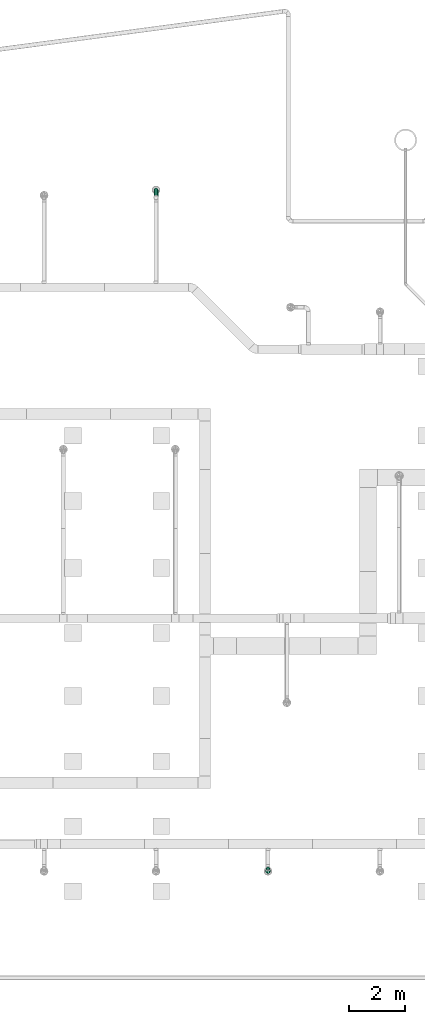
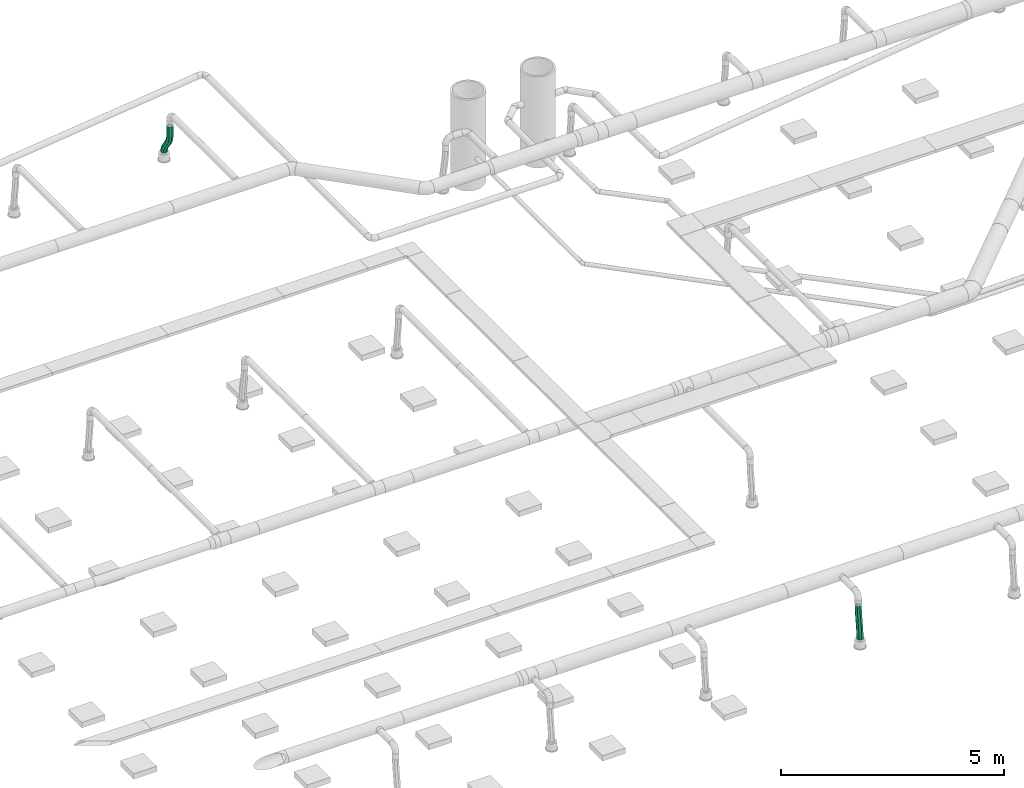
# One storey, part 244 of 374: 2 flow segments.
"""IFC2X3 building model written with IfcOpenShell, lengths in metres."""

import ifcopenshell
import ifcopenshell.guid

model = None  # the IFC model being written
_history = None  # IfcOwnerHistory: only IFC2X3 demands one
_inside = {}  # id of a spatial element -> (the spatial element, [elements in it])
_under = {}  # id of a project, library or spatial element -> (it, [spatial elements below it])
_declared = {}  # id of a project -> (the project, [libraries it declares])
_typed = {}  # id of a type object -> (the type object, [elements of that type])
_made_of = {}  # id of a material, layer set ... -> (it, [elements and type objects made of it])


def new_model(schema):
    """Start an empty IFC model of exactly this schema.

    Asked for "IFC4X3", IfcOpenShell would pick the latest addendum, in which some entities
    have other attributes; the version numbers below select the first issue.
    IFC2X3 requires an IfcOwnerHistory on every rooted entity: one is made here for all.
    """
    global model, _history
    if schema == "IFC4X3":
        model = ifcopenshell.file(schema_version=(4, 3, 0, 0))
    else:
        model = ifcopenshell.file(schema=schema)
    _inside.clear()
    _under.clear()
    _declared.clear()
    _typed.clear()
    _made_of.clear()
    _history = None
    if model.schema == "IFC2X3":
        org = make("IfcOrganization", Name="unknown")
        user = make(
            "IfcPersonAndOrganization",
            ThePerson=make("IfcPerson", FamilyName="unknown"),
            TheOrganization=org,
        )
        app = make(
            "IfcApplication",
            ApplicationDeveloper=org,
            Version="unknown",
            ApplicationFullName="unknown",
            ApplicationIdentifier="unknown",
        )
        _history = make(
            "IfcOwnerHistory",
            OwningUser=user,
            OwningApplication=app,
            ChangeAction="ADDED",
            CreationDate=0,
        )
    return model


def make(cls, **values):
    """One entity of the class cls with the attributes given. An attribute that is None is left unset."""
    return model.create_entity(
        cls, **{name: value for name, value in values.items() if value is not None}
    )


def rooted(cls, **values):
    """An entity with a GlobalId (a new one), such as an element, a storey or a relation."""
    return make(cls, GlobalId=ifcopenshell.guid.new(), OwnerHistory=_history, **values)


def si_unit(unit_type, name, prefix=None):
    """IfcSIUnit, for example si_unit("LENGTHUNIT", "METRE", prefix="MILLI")."""
    return make("IfcSIUnit", UnitType=unit_type, Prefix=prefix, Name=name)


def assignment(units):
    """IfcUnitAssignment: the units of a project."""
    return None if units is None else make("IfcUnitAssignment", Units=units)


def point(xyz):
    """IfcCartesianPoint."""
    return None if xyz is None else make("IfcCartesianPoint", Coordinates=xyz)


def direction(xyz):
    """IfcDirection."""
    return None if xyz is None else make("IfcDirection", DirectionRatios=xyz)


def frame(location, z_axis=None, x_axis=None):
    """IfcAxis2Placement3D, a coordinate frame: its origin and axes. An axis left out is left unset."""
    return make(
        "IfcAxis2Placement3D",
        Location=point(location),
        Axis=direction(z_axis),
        RefDirection=direction(x_axis),
    )


def origin():
    """The frame at (0, 0, 0) with its axes left unset."""
    return frame((0.0, 0.0, 0.0))


def place(relative_to, where):
    """IfcLocalPlacement: puts the frame where relative to a parent placement (None: the world)."""
    return make(
        "IfcLocalPlacement", PlacementRelTo=relative_to, RelativePlacement=where
    )


def context(
    kind, dimensions, precision=None, world=None, true_north=None, identifier=None
):
    """IfcGeometricRepresentationContext, for example the 3D "Model" context."""
    return make(
        "IfcGeometricRepresentationContext",
        ContextIdentifier=identifier,
        ContextType=kind,
        CoordinateSpaceDimension=dimensions,
        Precision=precision,
        WorldCoordinateSystem=world,
        TrueNorth=true_north,
    )


def subcontext(parent, identifier, kind, view, scale=None):
    """IfcGeometricRepresentationSubContext, for example "Body" below "Model"."""
    return make(
        "IfcGeometricRepresentationSubContext",
        ContextIdentifier=identifier,
        ContextType=kind,
        ParentContext=parent,
        TargetScale=scale,
        TargetView=view,
    )


def project(units=None, contexts=None):
    """IfcProject with its units and contexts."""
    return rooted(
        "IfcProject",
        Name="project",
        RepresentationContexts=contexts,
        UnitsInContext=assignment(units),
    )


def spatial(cls, under=None, at=None, **own):
    """A site, building, storey or space (cls), placed at a placement, below another one or the project."""
    s = rooted(cls, ObjectPlacement=at, **own)
    if under is not None:
        _under.setdefault(under.id(), (under, []))[1].append(s)
    return s


def faces_of(points, faces, orient=None, outer=None):
    """IfcFace entities. A face is a list of loops; a loop is a list of indices into points, from 0.

    orient and outer hold one flag for each loop. By default every Orientation is true, the
    first loop of a face is its IfcFaceOuterBound and the others are IfcFaceBound.
    """
    made = []
    for i, loops in enumerate(faces):
        bounds = []
        for j, loop in enumerate(loops):
            is_outer = j == 0 if outer is None else outer[i][j]
            bounds.append(
                make(
                    "IfcFaceOuterBound" if is_outer else "IfcFaceBound",
                    Bound=make("IfcPolyLoop", Polygon=[points[k] for k in loop]),
                    Orientation=True if orient is None else orient[i][j],
                )
            )
        made.append(make("IfcFace", Bounds=bounds))
    return made


def open_shell(faces, orient=None, outer=None):
    """The faces of one IfcOpenShell. surface_model builds it on its shared points."""
    return ("IfcOpenShell", faces, orient, outer)


def surface_model(cls, points, shells):
    """IfcFaceBasedSurfaceModel or IfcShellBasedSurfaceModel (cls): surfaces that need not close."""
    shared = [point(p) for p in points]
    made = [make(c, CfsFaces=faces_of(shared, fs, o, b)) for c, fs, o, b in shells]
    if cls == "IfcFaceBasedSurfaceModel":
        return make(cls, FbsmFaces=made)
    return make(cls, SbsmBoundary=made)


def shape(context_of_items, identifier, shape_type, items):
    """IfcShapeRepresentation: the items that make up one representation, for example the "Body"."""
    return make(
        "IfcShapeRepresentation",
        ContextOfItems=context_of_items,
        RepresentationIdentifier=identifier,
        RepresentationType=shape_type,
        Items=items,
    )


def source(mapping_origin, context_of_items, identifier, shape_type, items):
    """IfcRepresentationMap: a shape defined once, which mapped items show again and again."""
    return make(
        "IfcRepresentationMap",
        MappingOrigin=mapping_origin,
        MappedRepresentation=shape(context_of_items, identifier, shape_type, items),
    )


def transform(
    local_origin,
    x_axis=None,
    y_axis=None,
    z_axis=None,
    scale=None,
    scale2=None,
    scale3=None,
    uniform=True,
):
    """IfcCartesianTransformationOperator3D, or its non-uniform kind. x_axis, y_axis, z_axis: its Axis1, 2, 3."""
    if uniform:
        return make(
            "IfcCartesianTransformationOperator3D",
            Axis1=direction(x_axis),
            Axis2=direction(y_axis),
            LocalOrigin=point(local_origin),
            Scale=scale,
            Axis3=direction(z_axis),
        )
    return make(
        "IfcCartesianTransformationOperator3DnonUniform",
        Axis1=direction(x_axis),
        Axis2=direction(y_axis),
        LocalOrigin=point(local_origin),
        Scale=scale,
        Axis3=direction(z_axis),
        Scale2=scale2,
        Scale3=scale3,
    )


def mapped(mapping_source, mapping_target):
    """IfcMappedItem: shows the shape of a source again, moved by a transform."""
    return make(
        "IfcMappedItem", MappingSource=mapping_source, MappingTarget=mapping_target
    )


def made_of(thing, what):
    """Note that an element or type object is made of a material, layer set ...; save() writes the relation."""
    if what is not None:
        _made_of.setdefault(what.id(), (what, []))[1].append(thing)
    return thing


def element(
    cls,
    number,
    at=None,
    inside=None,
    cuts=None,
    type_object=None,
    material=None,
    context=None,
    identifier="Body",
    shape_type=None,
    held_by="IfcProductDefinitionShape",
    body=None,
    shapes=None,
    **own,
):
    """One element of the class cls, such as IfcWall. Its Tag is "e" and its number.

    at: its placement. inside: the storey or other place that contains it. cuts: it is an
    opening in that element (IfcRelVoidsElement). A single representation is given by context,
    identifier, shape_type and body (its items); several are given by shapes. held_by: the class
    of the entity that holds the representations. save() writes the other relations.
    """
    e = rooted(cls, Tag="e%d" % number, ObjectPlacement=at, **own)
    if body is not None:
        shapes = [shape(context, identifier, shape_type, body)]
    if shapes is not None:
        e.Representation = make(held_by, Representations=shapes)
    if inside is not None:
        _inside.setdefault(inside.id(), (inside, []))[1].append(e)
    if cuts is not None:
        rooted(
            "IfcRelVoidsElement", RelatingBuildingElement=cuts, RelatedOpeningElement=e
        )
    if type_object is not None:
        _typed.setdefault(type_object.id(), (type_object, []))[1].append(e)
    return made_of(e, material)


def aggregate(whole, parts):
    """IfcRelAggregates: a whole, such as a stair, and the parts it consists of."""
    return rooted("IfcRelAggregates", RelatingObject=whole, RelatedObjects=parts)


def save(model, path):
    """Write the relations noted so far, then the file.

    IfcRelAggregates (storeys below a building ...), IfcRelContainedInSpatialStructure (elements
    in a storey), IfcRelDefinesByType, IfcRelAssociatesMaterial and IfcRelDeclares: one each for
    every whole, place, type object, material and project.
    """
    for whole, parts in _under.values():
        aggregate(whole, parts)
    for where, things in _inside.values():
        rooted(
            "IfcRelContainedInSpatialStructure",
            RelatedElements=things,
            RelatingStructure=where,
        )
    for kind, things in _typed.values():
        rooted("IfcRelDefinesByType", RelatedObjects=things, RelatingType=kind)
    for what, things in _made_of.values():
        rooted("IfcRelAssociatesMaterial", RelatedObjects=things, RelatingMaterial=what)
    for by, libraries in _declared.values():
        rooted("IfcRelDeclares", RelatingContext=by, RelatedDefinitions=libraries)
    model.write(path)


model = new_model("IFC2X3")

# Units and contexts
model_context = context("Model", 3, precision=1e-05, world=origin(), true_north=direction((-0.4480736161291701, 0.8939966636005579)))
body_context = subcontext(model_context, "Body", "Model", "MODEL_VIEW")
ifc_project = project(units=[si_unit("LENGTHUNIT", "METRE"), si_unit("AREAUNIT", "SQUARE_METRE"), si_unit("VOLUMEUNIT", "CUBIC_METRE"), si_unit("PLANEANGLEUNIT", "RADIAN"), si_unit("THERMODYNAMICTEMPERATUREUNIT", "KELVIN"), si_unit("MASSUNIT", "GRAM", prefix="KILO"), si_unit("TIMEUNIT", "SECOND")], contexts=[model_context])

# Site, building, storey
site_placement = place(None, origin())
site = spatial("IfcSite", under=ifc_project, at=site_placement, Name="Site 1", CompositionType="ELEMENT")
building_placement = place(site_placement, origin())
building = spatial("IfcBuilding", under=site, at=building_placement, Name="Undefined", CompositionType="ELEMENT")
storey_placement = place(building_placement, origin())
storey = spatial("IfcBuildingStorey", under=building, at=storey_placement, Name="Rez de chauss\x8ee", CompositionType="ELEMENT", Elevation=0.0)

# Flow segments
shared_shape_1 = source(origin(), body_context, "Body", "SurfaceModel", [
    surface_model("IfcFaceBasedSurfaceModel", [(0.09591138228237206, 1.776356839e-15, 3.552713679e-15), (0.05777895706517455, 0.04790565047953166, 0.0), (0.0, 0.0, 0.0), (0.03990852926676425, -0.04643643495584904, -1.08023969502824e-06), (-0.05576709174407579, -0.04966194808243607, -0.0010921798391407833), (-0.014403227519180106, -0.09480686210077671, -0.001066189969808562), (-0.10982704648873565, -0.10061373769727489, -0.003047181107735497), (-0.06736210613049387, -0.14472448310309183, -0.00298252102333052), (-0.1625398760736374, -0.15244488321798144, -0.005638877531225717), (-0.1193063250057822, -0.1958025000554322, -0.005537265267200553), (-0.21426131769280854, -0.2047537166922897, -0.008645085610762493), (-0.17057410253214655, -0.24765411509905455, -0.00851761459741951), (-0.26534081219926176, -0.25714538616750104, -0.011847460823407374), (-0.2215036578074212, -0.2998925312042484, -0.01171076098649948), (-0.3161204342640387, -0.3092305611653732, -0.015031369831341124), (-0.2724332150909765, -0.35213095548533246, -0.014903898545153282), (-0.36693455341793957, -0.3606249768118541, -0.01798584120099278), (-0.3237009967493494, -0.4039825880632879, -0.017884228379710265), (-0.4181101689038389, -0.41094988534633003, -0.020503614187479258), (-0.37564522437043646, -0.4550606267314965, -0.020438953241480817), (-0.4699679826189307, -0.4598333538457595, -0.022381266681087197), (-0.42860411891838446, -0.504978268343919, -0.022355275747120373), (-0.5228244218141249, -0.5069122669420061, -0.02341931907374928), (-0.4829159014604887, -0.5533487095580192, -0.023420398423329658), (-0.5770511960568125, -0.5518794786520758, -0.023421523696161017), (-0.5389187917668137, -0.5997851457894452, -0.023421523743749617), (0.03053522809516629, 0.0815571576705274, -0.04329420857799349), (-0.02797941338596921, 0.03304293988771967, -0.04329376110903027), (-0.08434932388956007, -0.01715397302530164, -0.04439715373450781), (-0.13886536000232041, -0.06853412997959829, -0.046368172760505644), (-0.19189656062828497, -0.12067723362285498, -0.048975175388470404), (-0.24380591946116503, -0.1731754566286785, -0.0519920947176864), (-0.2949475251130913, -0.22563061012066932, -0.05519829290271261), (-0.3456650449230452, -0.27765231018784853, -0.05837837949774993), (-0.39629125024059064, -0.3288573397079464, -0.06132213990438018), (-0.44714849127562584, -0.3788702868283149, -0.06382460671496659), (-0.49855021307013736, -0.42732537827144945, -0.0656862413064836), (-0.5508038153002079, -0.4738693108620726, -0.06671308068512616), (-0.6042948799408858, -0.5182279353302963, -0.06671573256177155), (0.030139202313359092, 0.08124192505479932, -0.10452146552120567), (-0.027639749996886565, 0.033336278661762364, -0.10452146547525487), (-0.08340684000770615, -0.0163256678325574, -0.1056136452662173), (-0.1374667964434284, -0.06727745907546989, -0.10756864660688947), (-0.19017963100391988, -0.11910860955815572, -0.1101603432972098), (-0.24190108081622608, -0.1714174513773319, -0.11316655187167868), (-0.29298058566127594, -0.223809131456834, -0.11636892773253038), (-0.34376021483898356, -0.2758943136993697, -0.11955283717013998), (-0.3945743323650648, -0.3272887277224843, -0.1225073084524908), (-0.4457499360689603, -0.37761362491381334, -0.12502508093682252), (-0.497607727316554, -0.4264970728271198, -0.12690273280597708), (-0.5504641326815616, -0.47357595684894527, -0.12794078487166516), (-0.6046908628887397, -0.5185431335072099, -0.12794298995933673), (0.05682286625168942, 0.04714461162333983, -0.14781567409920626), (0.0008200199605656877, 0.0007081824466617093, -0.1478167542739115), (-0.05349173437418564, -0.047662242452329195, -0.1488818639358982), (-0.10645061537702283, -0.09757986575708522, -0.1507981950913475), (-0.1583948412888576, -0.14865788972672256, -0.15335293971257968), (-0.20966263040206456, -0.20050951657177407, -0.15633328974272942), (-0.2605922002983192, -0.2527479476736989, -0.15952643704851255), (-0.31152176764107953, -0.30498638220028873, -0.1627195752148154), (-0.36278954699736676, -0.3568380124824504, -0.16569990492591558), (-0.41473375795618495, -0.40791603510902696, -0.16825462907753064), (-0.46769262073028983, -0.4578336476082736, -0.1701709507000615), (-0.5220043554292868, -0.506204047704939, -0.17123607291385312), (-0.5780071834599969, -0.552640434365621, -0.17123719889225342), (0.09495529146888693, -0.0007610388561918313, -0.1478156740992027), (0.04072854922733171, -0.04572825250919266, -0.14781783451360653), (-0.012127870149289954, -0.09280715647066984, -0.14885587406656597), (-0.06398567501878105, -0.14169061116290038, -0.15073353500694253), (-0.11516129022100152, -0.19201550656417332, -0.15325132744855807), (-0.16597541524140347, -0.24340991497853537, -0.15620581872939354), (-0.21675504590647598, -0.2954950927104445, -0.1593897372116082), (-0.2678345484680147, -0.347886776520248, -0.16259210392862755), (-0.3195559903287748, -0.4001956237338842, -0.16559829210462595), (-0.3722688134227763, -0.4520267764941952, -0.16818996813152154), (-0.4263287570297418, -0.5029785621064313, -0.17014495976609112), (-0.4820958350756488, -0.5526404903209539, -0.1712371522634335), (-0.5398747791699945, -0.6005461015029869, -0.17123719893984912), (0.12219902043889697, -0.03441254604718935, -0.10452146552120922), (0.06870796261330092, -0.07877119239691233, -0.10452407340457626), (0.016454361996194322, -0.1253151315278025, -0.10555090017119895), (-0.034947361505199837, -0.17377021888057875, -0.10741254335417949), (-0.08580460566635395, -0.22378315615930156, -0.10991502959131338), (-0.1364308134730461, -0.2749881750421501, -0.11285880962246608), (-0.18714833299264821, -0.327009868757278, -0.11603890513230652), (-0.2382899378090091, -0.37946502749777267, -0.11924509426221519), (-0.2901992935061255, -0.4319632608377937, -0.12226199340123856), (-0.343230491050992, -0.4841063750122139, -0.12486897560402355), (-0.3977465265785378, -0.5354865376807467, -0.12683998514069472), (-0.45411644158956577, -0.5856834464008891, -0.12794339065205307), (-0.5126310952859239, -0.6341976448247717, -0.12794299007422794), (0.12259504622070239, -0.0340973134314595, -0.04329420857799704), (0.0683682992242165, -0.07906453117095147, -0.04329636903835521), (0.015511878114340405, -0.1261434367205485, -0.0443344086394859), (-0.03634592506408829, -0.17502688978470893, -0.046212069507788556), (-0.08752153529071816, -0.22535178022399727, -0.04872986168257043), (-0.13833565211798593, -0.2767461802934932, -0.051684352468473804), (-0.18911527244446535, -0.3288313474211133, -0.05486827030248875), (-0.24019476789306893, -0.38122302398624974, -0.05807063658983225), (-0.29191621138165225, -0.433531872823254, -0.061076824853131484), (-0.34462904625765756, -0.4853630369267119, -0.06366850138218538), (-0.3986890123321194, -0.536314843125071, -0.06562349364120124), (-0.45445612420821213, -0.5859768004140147, -0.06671568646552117), (-0.5122351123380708, -0.6338824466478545, -0.06671573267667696)], [open_shell([[[0, 1, 2]], [[2, 3, 0]], [[3, 2, 4]], [[4, 5, 3]], [[5, 4, 6]], [[6, 7, 5]], [[7, 6, 8]], [[8, 9, 7]], [[9, 8, 10]], [[10, 11, 9]], [[11, 10, 12]], [[12, 13, 11]], [[13, 12, 14]], [[14, 15, 13]], [[15, 14, 16]], [[16, 17, 15]], [[17, 16, 18]], [[18, 19, 17]], [[19, 18, 20]], [[20, 21, 19]], [[21, 20, 22]], [[22, 23, 21]], [[23, 22, 24]], [[24, 25, 23]], [[1, 26, 27]], [[27, 2, 1]], [[2, 27, 28]], [[28, 4, 2]], [[4, 28, 29]], [[29, 6, 4]], [[6, 29, 30]], [[30, 8, 6]], [[8, 30, 31]], [[31, 10, 8]], [[10, 31, 32]], [[32, 12, 10]], [[12, 32, 33]], [[33, 14, 12]], [[14, 33, 34]], [[34, 16, 14]], [[16, 34, 35]], [[35, 18, 16]], [[18, 35, 36]], [[36, 20, 18]], [[20, 36, 37]], [[37, 22, 20]], [[22, 37, 38]], [[38, 24, 22]], [[26, 39, 40]], [[40, 27, 26]], [[27, 40, 41]], [[41, 28, 27]], [[28, 41, 42]], [[42, 29, 28]], [[29, 42, 43]], [[43, 30, 29]], [[30, 43, 44]], [[44, 31, 30]], [[31, 44, 45]], [[45, 32, 31]], [[32, 45, 46]], [[46, 33, 32]], [[33, 46, 47]], [[47, 34, 33]], [[34, 47, 48]], [[48, 35, 34]], [[35, 48, 49]], [[49, 36, 35]], [[36, 49, 50]], [[50, 37, 36]], [[37, 50, 51]], [[51, 38, 37]], [[39, 52, 53]], [[53, 40, 39]], [[40, 53, 54]], [[54, 41, 40]], [[41, 54, 55]], [[55, 42, 41]], [[42, 55, 56]], [[56, 43, 42]], [[43, 56, 57]], [[57, 44, 43]], [[44, 57, 58]], [[58, 45, 44]], [[45, 58, 59]], [[59, 46, 45]], [[46, 59, 60]], [[60, 47, 46]], [[47, 60, 61]], [[61, 48, 47]], [[48, 61, 62]], [[62, 49, 48]], [[49, 62, 63]], [[63, 50, 49]], [[50, 63, 64]], [[64, 51, 50]], [[52, 65, 66]], [[66, 53, 52]], [[53, 66, 67]], [[67, 54, 53]], [[54, 67, 68]], [[68, 55, 54]], [[55, 68, 69]], [[69, 56, 55]], [[56, 69, 70]], [[70, 57, 56]], [[57, 70, 71]], [[71, 58, 57]], [[58, 71, 72]], [[72, 59, 58]], [[59, 72, 73]], [[73, 60, 59]], [[60, 73, 74]], [[74, 61, 60]], [[61, 74, 75]], [[75, 62, 61]], [[62, 75, 76]], [[76, 63, 62]], [[63, 76, 77]], [[77, 64, 63]], [[65, 78, 79]], [[79, 66, 65]], [[66, 79, 80]], [[80, 67, 66]], [[67, 80, 81]], [[81, 68, 67]], [[68, 81, 82]], [[82, 69, 68]], [[69, 82, 83]], [[83, 70, 69]], [[70, 83, 84]], [[84, 71, 70]], [[71, 84, 85]], [[85, 72, 71]], [[72, 85, 86]], [[86, 73, 72]], [[73, 86, 87]], [[87, 74, 73]], [[74, 87, 88]], [[88, 75, 74]], [[75, 88, 89]], [[89, 76, 75]], [[76, 89, 90]], [[90, 77, 76]], [[78, 91, 92]], [[92, 79, 78]], [[79, 92, 93]], [[93, 80, 79]], [[80, 93, 94]], [[94, 81, 80]], [[81, 94, 95]], [[95, 82, 81]], [[82, 95, 96]], [[96, 83, 82]], [[83, 96, 97]], [[97, 84, 83]], [[84, 97, 98]], [[98, 85, 84]], [[85, 98, 99]], [[99, 86, 85]], [[86, 99, 100]], [[100, 87, 86]], [[87, 100, 101]], [[101, 88, 87]], [[88, 101, 102]], [[102, 89, 88]], [[89, 102, 103]], [[103, 90, 89]], [[91, 0, 3]], [[3, 92, 91]], [[92, 3, 5]], [[5, 93, 92]], [[93, 5, 7]], [[7, 94, 93]], [[94, 7, 9]], [[9, 95, 94]], [[95, 9, 11]], [[11, 96, 95]], [[96, 11, 13]], [[13, 97, 96]], [[97, 13, 15]], [[15, 98, 97]], [[98, 15, 17]], [[17, 99, 98]], [[99, 17, 19]], [[19, 100, 99]], [[100, 19, 21]], [[21, 101, 100]], [[101, 21, 23]], [[23, 102, 101]], [[102, 23, 25]], [[25, 103, 102]]])]),
])
flow_segment_1_placement = place(storey_placement, origin())
element("IfcFlowSegment", 1, at=flow_segment_1_placement, inside=storey, Name="Tube flexible", ObjectType="Tube flexible", context=body_context, shape_type="MappedRepresentation", body=[
    mapped(shared_shape_1, transform((30.23343239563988, 2.014947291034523, 3.4049617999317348), x_axis=(-0.2443032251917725, -0.572898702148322, 0.7823701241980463), y_axis=(0.29465382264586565, 0.7248106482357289, 0.6227589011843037), z_axis=(-0.9238479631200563, 0.38267035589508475, -0.008266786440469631))),
])
shared_shape_2 = source(origin(), body_context, "Body", "SurfaceModel", [
    surface_model("IfcFaceBasedSurfaceModel", [(0.09581034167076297, 0.0, 0.0), (0.057333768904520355, 0.047629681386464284, 0.0), (0.0, 0.0, 0.0), (0.03925174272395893, -0.046992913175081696, -2.294119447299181e-06), (-0.056420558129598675, -0.04738014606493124, -0.00016222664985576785), (-0.017699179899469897, -0.09481102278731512, -0.00016368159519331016), (-0.11243610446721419, -0.09186288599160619, 0.0004915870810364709), (-0.0758571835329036, -0.14096496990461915, 0.0005247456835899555), (-0.16860745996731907, -0.13111800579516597, 0.0028524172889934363), (-0.13603702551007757, -0.18296539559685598, 0.003071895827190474), (-0.22731372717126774, -0.16400847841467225, 0.007912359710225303), (-0.1990534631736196, -0.21832294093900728, 0.00848667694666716), (-0.25444101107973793, -0.17582528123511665, 0.011327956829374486), (-0.23188001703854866, -0.23273270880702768, 0.012584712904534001), (-0.2835242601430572, -0.18599814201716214, 0.015785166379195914), (-0.2657212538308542, -0.24454824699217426, 0.01777799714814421), (-0.3184543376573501, -0.19488145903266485, 0.022201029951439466), (-0.3050675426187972, -0.25456379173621, 0.025002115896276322), (-0.35530282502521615, -0.20137229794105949, 0.029887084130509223), (-0.3454974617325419, -0.2617076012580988, 0.033428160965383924), (-0.39413956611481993, -0.2061505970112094, 0.038645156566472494), (-0.38668051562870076, -0.26678774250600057, 0.04271115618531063), (-0.4346363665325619, -0.20986689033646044, 0.04818107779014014), (-0.42828620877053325, -0.27061228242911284, 0.052506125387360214), (-0.5193303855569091, -0.21713733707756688, 0.06828414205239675), (-0.511443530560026, -0.27772682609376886, 0.07225208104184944), (-0.6037609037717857, -0.22944867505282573, 0.08671118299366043), (-0.5923254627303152, -0.2895157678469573, 0.08990621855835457), (-0.6490732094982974, -0.2406881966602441, 0.09512457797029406), (-0.6310869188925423, -0.2991833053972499, 0.09708641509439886), (-0.6912508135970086, -0.25569594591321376, 0.10150743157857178), (-0.6682880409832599, -0.31244364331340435, 0.10270872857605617), (-0.7207403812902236, -0.26958536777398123, 0.10488792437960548), (-0.6920587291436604, -0.3236789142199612, 0.10542108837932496), (-0.7484978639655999, -0.2859275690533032, 0.10702833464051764), (-0.7148911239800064, -0.3371095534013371, 0.10718551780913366), (-0.77516387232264, -0.3053453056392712, 0.1078998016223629), (-0.7366873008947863, -0.3529749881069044, 0.10789980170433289), (0.029935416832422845, 0.08115440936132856, -0.0432949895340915), (-0.027719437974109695, 0.03326096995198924, -0.04329403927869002), (-0.08392031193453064, -0.01393776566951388, -0.043456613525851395), (-0.13904842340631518, -0.057728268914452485, -0.042817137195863), (-0.19355940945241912, -0.09584624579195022, -0.0405334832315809), (-0.25048034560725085, -0.12771482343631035, -0.03562051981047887), (-0.27524691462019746, -0.13845758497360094, -0.03248759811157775), (-0.3023593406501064, -0.14795002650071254, -0.028335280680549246), (-0.33546016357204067, -0.15636435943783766, -0.022254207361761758), (-0.3708251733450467, -0.16258472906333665, -0.014874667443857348), (-0.40869003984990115, -0.1672380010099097, -0.006334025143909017), (-0.4487275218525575, -0.17090945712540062, 0.0030945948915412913), (-0.5340580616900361, -0.1782444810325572, 0.023345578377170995), (-0.6199584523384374, -0.19077220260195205, 0.042092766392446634), (-0.6679842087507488, -0.2026628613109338, 0.05101696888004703), (-0.7122231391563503, -0.21839441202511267, 0.05771484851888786), (-0.7440815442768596, -0.23338321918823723, 0.061372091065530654), (-0.7738790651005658, -0.250931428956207, 0.06366823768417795), (-0.8025622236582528, -0.2718205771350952, 0.06460481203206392), (0.02966486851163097, 0.08093585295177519, -0.10452335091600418), (-0.027668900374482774, 0.03330617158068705, -0.10452335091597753), (-0.08408945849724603, -0.014073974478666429, -0.10468557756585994), (-0.14010500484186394, -0.05855671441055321, -0.10403176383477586), (-0.1962763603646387, -0.09781183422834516, -0.1016709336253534), (-0.254982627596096, -0.13070230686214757, -0.09661099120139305), (-0.2821099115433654, -0.14251910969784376, -0.09319539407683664), (-0.3111931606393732, -0.15269197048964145, -0.0887381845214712), (-0.34612323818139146, -0.16157528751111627, -0.08232232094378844), (-0.3829717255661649, -0.16806612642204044, -0.07463626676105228), (-0.42180846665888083, -0.17284442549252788, -0.06587819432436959), (-0.46230526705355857, -0.1765607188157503, -0.05634227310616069), (-0.5469992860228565, -0.1838311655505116, -0.03623920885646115), (-0.6314298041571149, -0.19614250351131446, -0.017812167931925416), (-0.6767421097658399, -0.20738202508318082, -0.009398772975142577), (-0.7189197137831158, -0.22238977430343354, -0.003015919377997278), (-0.748409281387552, -0.23627919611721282, 0.0003645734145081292), (-0.7761667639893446, -0.2526213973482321, 0.0025049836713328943), (-0.8028327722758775, -0.2720391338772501, 0.0033764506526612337), (0.05668060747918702, 0.047102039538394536, -0.14781834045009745), (0.00012200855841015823, 0.00010912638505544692, -0.14782063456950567), (-0.056828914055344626, -0.047708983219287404, -0.14798202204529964), (-0.11498691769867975, -0.09386293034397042, -0.14729359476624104), (-0.1751667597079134, -0.13586335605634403, -0.14474644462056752), (-0.23818319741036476, -0.17122090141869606, -0.13933166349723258), (-0.27100975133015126, -0.1856306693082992, -0.13523362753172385), (-0.3048509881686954, -0.19744620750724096, -0.13004034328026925), (-0.3441972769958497, -0.2074617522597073, -0.12281622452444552), (-0.38462719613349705, -0.21460556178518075, -0.11439017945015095), (-0.4258102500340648, -0.2196857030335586, -0.10510718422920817), (-0.46741594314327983, -0.2235102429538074, -0.09531221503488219), (-0.5505732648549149, -0.23062478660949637, -0.07556625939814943), (-0.6314551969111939, -0.24241372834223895, -0.05791212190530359), (-0.6702166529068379, -0.2520812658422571, -0.05073192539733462), (-0.7074177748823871, -0.26534160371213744, -0.045109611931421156), (-0.7311884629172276, -0.2765768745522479, -0.04239725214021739), (-0.7540208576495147, -0.2900075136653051, -0.04063282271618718), (-0.7758170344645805, -0.3058729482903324, -0.039918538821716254), (0.09515718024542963, -0.0005276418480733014, -0.14781834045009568), (0.03937375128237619, -0.046883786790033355, -0.14782292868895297), (-0.018107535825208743, -0.0951398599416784, -0.14798347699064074), (-0.07840799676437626, -0.14296501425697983, -0.14726043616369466), (-0.1425963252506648, -0.1877107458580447, -0.1445269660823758), (-0.20992293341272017, -0.2255353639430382, -0.13875734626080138), (-0.24844875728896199, -0.24253809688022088, -0.13397687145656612), (-0.28704798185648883, -0.25599631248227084, -0.12804751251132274), (-0.33081048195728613, -0.2671440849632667, -0.12001513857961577), (-0.3748218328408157, -0.27494086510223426, -0.1108491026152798), (-0.41835119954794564, -0.280322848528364, -0.10104118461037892), (-0.4610657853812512, -0.284255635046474, -0.09098716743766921), (-0.5426864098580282, -0.2912142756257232, -0.07159832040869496), (-0.6200197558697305, -0.3024808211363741, -0.05471708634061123), (-0.6522303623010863, -0.31057637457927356, -0.04877008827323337), (-0.6844550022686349, -0.32208930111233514, -0.04390831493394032), (-0.7025068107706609, -0.33067042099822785, -0.041864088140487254), (-0.7204141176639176, -0.3411894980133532, -0.040475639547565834), (-0.7373404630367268, -0.3535026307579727, -0.03991853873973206), (0.12255553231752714, -0.034052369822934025, -0.10452335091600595), (0.06709318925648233, -0.0801447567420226, -0.10452888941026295), (0.009392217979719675, -0.12858224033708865, -0.10468909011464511), (-0.05179567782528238, -0.17709963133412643, -0.1039517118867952), (-0.1176443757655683, -0.2229825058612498, -0.10114106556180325), (-0.1867563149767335, -0.2618290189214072, -0.09522446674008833), (-0.2276428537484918, -0.2799057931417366, -0.0901613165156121), (-0.2682129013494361, -0.2940444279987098, -0.0839270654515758), (-0.3138046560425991, -0.3056611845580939, -0.07555990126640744), (-0.35929948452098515, -0.31372843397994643, -0.06608735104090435), (-0.4038007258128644, -0.31923544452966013, -0.056062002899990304), (-0.44697463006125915, -0.32321306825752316, -0.04590068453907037), (-0.5279587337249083, -0.33010713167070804, -0.026659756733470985), (-0.6038222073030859, -0.3411572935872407, -0.010098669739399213), (-0.6333193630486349, -0.34860170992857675, -0.004662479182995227), (-0.6634826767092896, -0.35939083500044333, -0.00011573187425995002), (-0.6791656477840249, -0.36687256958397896, 0.0016517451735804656), (-0.6950329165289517, -0.37618563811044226, 0.0028844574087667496), (-0.709942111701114, -0.38702735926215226, 0.0033764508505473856), (0.12282608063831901, -0.033833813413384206, -0.0432949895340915), (0.06704265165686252, -0.0801899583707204, -0.04329957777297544), (0.00956136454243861, -0.12844603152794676, -0.04346012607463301), (-0.05073909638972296, -0.17627118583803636, -0.04273708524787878), (-0.11492742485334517, -0.2210169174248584, -0.04000361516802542), (-0.1822540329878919, -0.2588415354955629, -0.03423399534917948), (-0.22077985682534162, -0.2758442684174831, -0.029453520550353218), (-0.25937908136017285, -0.28930248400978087, -0.023524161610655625), (-0.3031415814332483, -0.30045025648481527, -0.015491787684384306), (-0.34715293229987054, -0.3082470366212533, -0.0063257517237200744), (-0.39068229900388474, -0.3136290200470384, 0.003482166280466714), (-0.43339688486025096, -0.31756180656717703, 0.013536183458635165), (-0.5150175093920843, -0.3245204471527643, 0.032925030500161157), (-0.5923508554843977, -0.33578699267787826, 0.04980626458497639), (-0.6245614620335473, -0.3438825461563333, 0.055753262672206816), (-0.6567861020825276, -0.35539547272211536, 0.06061503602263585), (-0.6748379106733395, -0.36397659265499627, 0.06265926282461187), (-0.69274521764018, -0.37449566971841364, 0.06404771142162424), (-0.7096715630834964, -0.3868088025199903, 0.06460481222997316)], [open_shell([[[0, 1, 2]], [[2, 3, 0]], [[3, 2, 4]], [[4, 5, 3]], [[5, 4, 6]], [[6, 7, 5]], [[7, 6, 8]], [[8, 9, 7]], [[9, 8, 10]], [[10, 11, 9]], [[11, 10, 12]], [[12, 13, 11]], [[13, 12, 14]], [[14, 15, 13]], [[15, 14, 16]], [[16, 17, 15]], [[17, 16, 18]], [[18, 19, 17]], [[19, 18, 20]], [[20, 21, 19]], [[21, 20, 22]], [[22, 23, 21]], [[23, 22, 24]], [[24, 25, 23]], [[25, 24, 26]], [[26, 27, 25]], [[27, 26, 28]], [[28, 29, 27]], [[29, 28, 30]], [[30, 31, 29]], [[31, 30, 32]], [[32, 33, 31]], [[33, 32, 34]], [[34, 35, 33]], [[35, 34, 36]], [[36, 37, 35]], [[1, 38, 39]], [[39, 2, 1]], [[2, 39, 40]], [[40, 4, 2]], [[4, 40, 41]], [[41, 6, 4]], [[6, 41, 42]], [[42, 8, 6]], [[8, 42, 43]], [[43, 10, 8]], [[10, 43, 44]], [[44, 12, 10]], [[12, 44, 45]], [[45, 14, 12]], [[14, 45, 46]], [[46, 16, 14]], [[16, 46, 47]], [[47, 18, 16]], [[18, 47, 48]], [[48, 20, 18]], [[20, 48, 49]], [[49, 22, 20]], [[22, 49, 50]], [[50, 24, 22]], [[24, 50, 51]], [[51, 26, 24]], [[26, 51, 52]], [[52, 28, 26]], [[28, 52, 53]], [[53, 30, 28]], [[30, 53, 54]], [[54, 32, 30]], [[32, 54, 55]], [[55, 34, 32]], [[34, 55, 56]], [[56, 36, 34]], [[38, 57, 58]], [[58, 39, 38]], [[39, 58, 59]], [[59, 40, 39]], [[40, 59, 60]], [[60, 41, 40]], [[41, 60, 61]], [[61, 42, 41]], [[42, 61, 62]], [[62, 43, 42]], [[43, 62, 63]], [[63, 44, 43]], [[44, 63, 64]], [[64, 45, 44]], [[45, 64, 65]], [[65, 46, 45]], [[46, 65, 66]], [[66, 47, 46]], [[47, 66, 67]], [[67, 48, 47]], [[48, 67, 68]], [[68, 49, 48]], [[49, 68, 69]], [[69, 50, 49]], [[50, 69, 70]], [[70, 51, 50]], [[51, 70, 71]], [[71, 52, 51]], [[52, 71, 72]], [[72, 53, 52]], [[53, 72, 73]], [[73, 54, 53]], [[54, 73, 74]], [[74, 55, 54]], [[55, 74, 75]], [[75, 56, 55]], [[57, 76, 77]], [[77, 58, 57]], [[58, 77, 78]], [[78, 59, 58]], [[59, 78, 79]], [[79, 60, 59]], [[60, 79, 80]], [[80, 61, 60]], [[61, 80, 81]], [[81, 62, 61]], [[62, 81, 82]], [[82, 63, 62]], [[63, 82, 83]], [[83, 64, 63]], [[64, 83, 84]], [[84, 65, 64]], [[65, 84, 85]], [[85, 66, 65]], [[66, 85, 86]], [[86, 67, 66]], [[67, 86, 87]], [[87, 68, 67]], [[68, 87, 88]], [[88, 69, 68]], [[69, 88, 89]], [[89, 70, 69]], [[70, 89, 90]], [[90, 71, 70]], [[71, 90, 91]], [[91, 72, 71]], [[72, 91, 92]], [[92, 73, 72]], [[73, 92, 93]], [[93, 74, 73]], [[74, 93, 94]], [[94, 75, 74]], [[76, 95, 96]], [[96, 77, 76]], [[77, 96, 97]], [[97, 78, 77]], [[78, 97, 98]], [[98, 79, 78]], [[79, 98, 99]], [[99, 80, 79]], [[80, 99, 100]], [[100, 81, 80]], [[81, 100, 101]], [[101, 82, 81]], [[82, 101, 102]], [[102, 83, 82]], [[83, 102, 103]], [[103, 84, 83]], [[84, 103, 104]], [[104, 85, 84]], [[85, 104, 105]], [[105, 86, 85]], [[86, 105, 106]], [[106, 87, 86]], [[87, 106, 107]], [[107, 88, 87]], [[88, 107, 108]], [[108, 89, 88]], [[89, 108, 109]], [[109, 90, 89]], [[90, 109, 110]], [[110, 91, 90]], [[91, 110, 111]], [[111, 92, 91]], [[92, 111, 112]], [[112, 93, 92]], [[93, 112, 113]], [[113, 94, 93]], [[95, 114, 115]], [[115, 96, 95]], [[96, 115, 116]], [[116, 97, 96]], [[97, 116, 117]], [[117, 98, 97]], [[98, 117, 118]], [[118, 99, 98]], [[99, 118, 119]], [[119, 100, 99]], [[100, 119, 120]], [[120, 101, 100]], [[101, 120, 121]], [[121, 102, 101]], [[102, 121, 122]], [[122, 103, 102]], [[103, 122, 123]], [[123, 104, 103]], [[104, 123, 124]], [[124, 105, 104]], [[105, 124, 125]], [[125, 106, 105]], [[106, 125, 126]], [[126, 107, 106]], [[107, 126, 127]], [[127, 108, 107]], [[108, 127, 128]], [[128, 109, 108]], [[109, 128, 129]], [[129, 110, 109]], [[110, 129, 130]], [[130, 111, 110]], [[111, 130, 131]], [[131, 112, 111]], [[112, 131, 132]], [[132, 113, 112]], [[114, 133, 134]], [[134, 115, 114]], [[115, 134, 135]], [[135, 116, 115]], [[116, 135, 136]], [[136, 117, 116]], [[117, 136, 137]], [[137, 118, 117]], [[118, 137, 138]], [[138, 119, 118]], [[119, 138, 139]], [[139, 120, 119]], [[120, 139, 140]], [[140, 121, 120]], [[121, 140, 141]], [[141, 122, 121]], [[122, 141, 142]], [[142, 123, 122]], [[123, 142, 143]], [[143, 124, 123]], [[124, 143, 144]], [[144, 125, 124]], [[125, 144, 145]], [[145, 126, 125]], [[126, 145, 146]], [[146, 127, 126]], [[127, 146, 147]], [[147, 128, 127]], [[128, 147, 148]], [[148, 129, 128]], [[129, 148, 149]], [[149, 130, 129]], [[130, 149, 150]], [[150, 131, 130]], [[131, 150, 151]], [[151, 132, 131]], [[133, 0, 3]], [[3, 134, 133]], [[134, 3, 5]], [[5, 135, 134]], [[135, 5, 7]], [[7, 136, 135]], [[136, 7, 9]], [[9, 137, 136]], [[137, 9, 11]], [[11, 138, 137]], [[138, 11, 13]], [[13, 139, 138]], [[139, 13, 15]], [[15, 140, 139]], [[140, 15, 17]], [[17, 141, 140]], [[141, 17, 19]], [[19, 142, 141]], [[142, 19, 21]], [[21, 143, 142]], [[143, 21, 23]], [[23, 144, 143]], [[144, 23, 25]], [[25, 145, 144]], [[145, 25, 27]], [[27, 146, 145]], [[146, 27, 29]], [[29, 147, 146]], [[147, 29, 31]], [[31, 148, 147]], [[148, 31, 33]], [[33, 149, 148]], [[149, 33, 35]], [[35, 150, 149]], [[150, 35, 37]], [[37, 151, 150]]])]),
])
flow_segment_2_placement = place(storey_placement, origin())
element("IfcFlowSegment", 2, at=flow_segment_2_placement, inside=storey, Name="Tube flexible", ObjectType="Tube flexible", context=body_context, shape_type="MappedRepresentation", body=[
    mapped(shared_shape_2, transform((26.233432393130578, 26.005461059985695, 3.405471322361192), x_axis=(-0.24456083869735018, -0.5788757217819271, 0.7778771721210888), y_axis=(0.2943877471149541, 0.720042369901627, 0.628390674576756), z_axis=(-0.923864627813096, 0.38267725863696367, -0.005680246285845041))),
])

save(model, "model.ifc")
